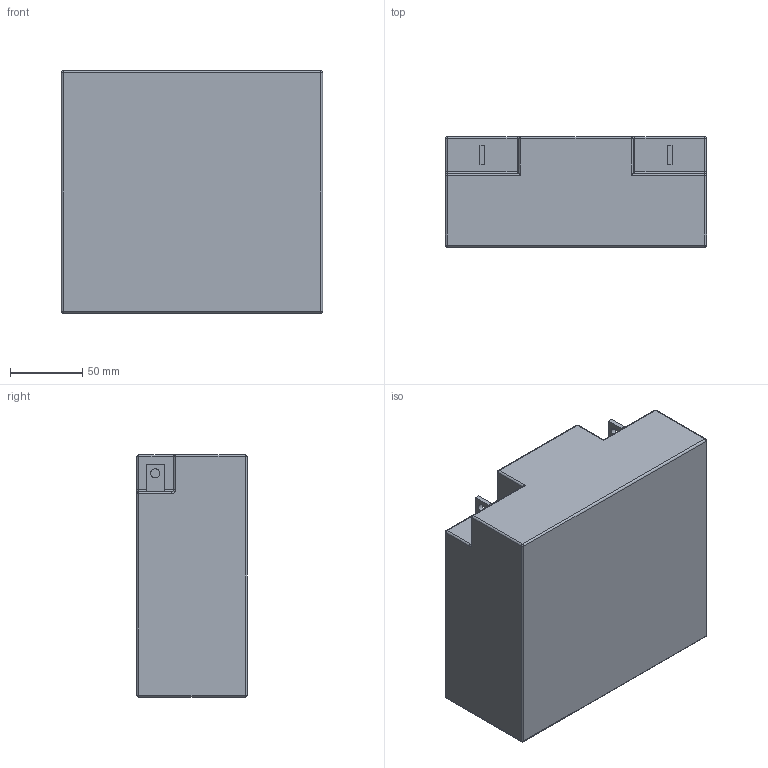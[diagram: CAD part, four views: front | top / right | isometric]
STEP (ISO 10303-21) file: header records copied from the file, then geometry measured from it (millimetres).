
FILE_DESCRIPTION (( 'STEP AP214' ), '1' );
FILE_NAME ('Battery-ES17-12.step', '2025-12-23T15:52:02', ( '' ), ( '' ), 'SwSTEP 2.0', 'SolidWorks 2026', '' );
FILE_SCHEMA (( 'AUTOMOTIVE_DESIGN' ));
Length unit declared in the file: inch
Products named in the file (1): Battery-ES17-12
Bounding box: 180.34 x 76.2 x 167.13 mm (x, y, z)
Volume: 2231898.8 mm3; surface area: 113328.5 mm2
Topology: 1 solids, 1 shells, 70 faces, 162 edges, 84 vertices
Faces by surface type: cylinder 32, plane 22, sphere 12, torus 4
Entity records: 1885 total; most frequent: DIRECTION 348, CARTESIAN_POINT 317, ORIENTED_EDGE 300, EDGE_CURVE 150, AXIS2_PLACEMENT_3D 131, VECTOR 86, LINE 86, VERTEX_POINT 84
